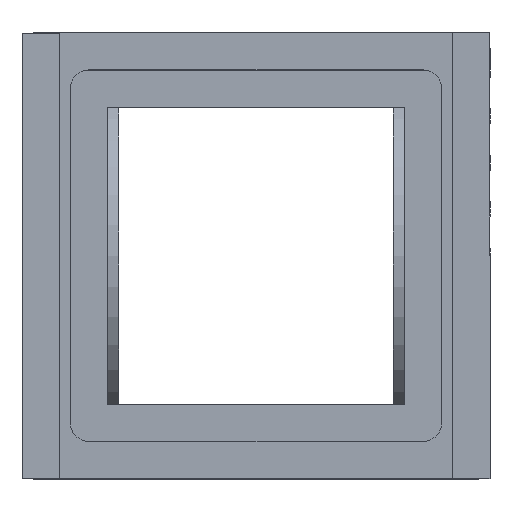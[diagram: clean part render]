
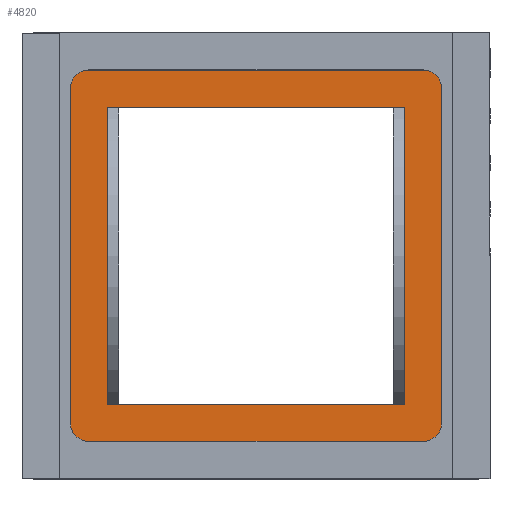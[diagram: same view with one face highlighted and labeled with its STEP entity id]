
A CAD part, top view. The second image highlights one B-rep face of the part: STEP entity #4820.
In plain terms, the highlighted planar face has unit normal (0, 0, 1).
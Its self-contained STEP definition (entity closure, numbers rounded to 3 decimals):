
#132 = LINE ( 'NONE', #4241, #4116 ) ;
#268 = VECTOR ( 'NONE', #3226, 1000. ) ;
#438 = VERTEX_POINT ( 'NONE', #3434 ) ;
#472 = DIRECTION ( 'NONE',  ( 0., -1., 0. ) ) ;
#511 = LINE ( 'NONE', #1929, #4541 ) ;
#541 = ORIENTED_EDGE ( 'NONE', *, *, #4026, .F. ) ;
#662 = DIRECTION ( 'NONE',  ( -1., 0., 0. ) ) ;
#682 = DIRECTION ( 'NONE',  ( 1., 0., 0. ) ) ;
#721 = VERTEX_POINT ( 'NONE', #733 ) ;
#733 = CARTESIAN_POINT ( 'NONE',  ( 50., 90., 50. ) ) ;
#826 = VERTEX_POINT ( 'NONE', #2264 ) ;
#864 = VERTEX_POINT ( 'NONE', #1433 ) ;
#991 = CARTESIAN_POINT ( 'NONE',  ( -40., 80., 50. ) ) ;
#1321 = ORIENTED_EDGE ( 'NONE', *, *, #4847, .T. ) ;
#1393 = CARTESIAN_POINT ( 'NONE',  ( 50., 0., 50. ) ) ;
#1407 = AXIS2_PLACEMENT_3D ( 'NONE', #2391, #2893, #662 ) ;
#1433 = CARTESIAN_POINT ( 'NONE',  ( 40., 0., 50. ) ) ;
#1436 = EDGE_CURVE ( 'NONE', #5105, #4177, #2072, .T. ) ;
#1490 = EDGE_CURVE ( 'NONE', #864, #4177, #2173, .T. ) ;
#1666 = CARTESIAN_POINT ( 'NONE',  ( 50., -10., 50. ) ) ;
#1671 = CARTESIAN_POINT ( 'NONE',  ( 50., -10., 50. ) ) ;
#1718 = ORIENTED_EDGE ( 'NONE', *, *, #2393, .T. ) ;
#1895 = PLANE ( 'NONE',  #1407 ) ;
#1913 = LINE ( 'NONE', #3656, #268 ) ;
#1929 = CARTESIAN_POINT ( 'NONE',  ( 50., 90., 50. ) ) ;
#1932 = FACE_BOUND ( 'NONE', #3249, .T. ) ;
#1967 = FACE_OUTER_BOUND ( 'NONE', #5671, .T. ) ;
#2072 = LINE ( 'NONE', #2416, #5428 ) ;
#2173 = LINE ( 'NONE', #3534, #3480 ) ;
#2186 = VERTEX_POINT ( 'NONE', #5151 ) ;
#2217 = ORIENTED_EDGE ( 'NONE', *, *, #3104, .F. ) ;
#2264 = CARTESIAN_POINT ( 'NONE',  ( -50., -10., 50. ) ) ;
#2391 = CARTESIAN_POINT ( 'NONE',  ( -50., 90., 50. ) ) ;
#2393 = EDGE_CURVE ( 'NONE', #864, #438, #4021, .T. ) ;
#2416 = CARTESIAN_POINT ( 'NONE',  ( -50., 80., 50. ) ) ;
#2534 = ORIENTED_EDGE ( 'NONE', *, *, #1490, .F. ) ;
#2578 = LINE ( 'NONE', #1666, #4517 ) ;
#2787 = DIRECTION ( 'NONE',  ( -1., 0., 0. ) ) ;
#2893 = DIRECTION ( 'NONE',  ( 0., 0., -1. ) ) ;
#3104 = EDGE_CURVE ( 'NONE', #721, #3420, #511, .T. ) ;
#3108 = DIRECTION ( 'NONE',  ( 0., 1., 0. ) ) ;
#3226 = DIRECTION ( 'NONE',  ( 1., 0., 0. ) ) ;
#3236 = LINE ( 'NONE', #4578, #4985 ) ;
#3249 = EDGE_LOOP ( 'NONE', ( #2534, #1718, #1321, #3806 ) ) ;
#3420 = VERTEX_POINT ( 'NONE', #1671 ) ;
#3434 = CARTESIAN_POINT ( 'NONE',  ( -40., 0., 50. ) ) ;
#3440 = ORIENTED_EDGE ( 'NONE', *, *, #3546, .T. ) ;
#3480 = VECTOR ( 'NONE', #3108, 1000. ) ;
#3534 = CARTESIAN_POINT ( 'NONE',  ( 40., 0., 50. ) ) ;
#3546 = EDGE_CURVE ( 'NONE', #2186, #826, #3236, .T. ) ;
#3656 = CARTESIAN_POINT ( 'NONE',  ( -50., 90., 50. ) ) ;
#3757 = ORIENTED_EDGE ( 'NONE', *, *, #3862, .F. ) ;
#3806 = ORIENTED_EDGE ( 'NONE', *, *, #1436, .T. ) ;
#3862 = EDGE_CURVE ( 'NONE', #3420, #826, #2578, .T. ) ;
#4021 = LINE ( 'NONE', #1393, #4267 ) ;
#4026 = EDGE_CURVE ( 'NONE', #2186, #721, #1913, .T. ) ;
#4116 = VECTOR ( 'NONE', #4679, 1000. ) ;
#4177 = VERTEX_POINT ( 'NONE', #5467 ) ;
#4241 = CARTESIAN_POINT ( 'NONE',  ( -40., 0., 50. ) ) ;
#4267 = VECTOR ( 'NONE', #2787, 1000. ) ;
#4496 = DIRECTION ( 'NONE',  ( 0., -1., 0. ) ) ;
#4517 = VECTOR ( 'NONE', #4858, 1000. ) ;
#4541 = VECTOR ( 'NONE', #4496, 1000. ) ;
#4578 = CARTESIAN_POINT ( 'NONE',  ( -50., 90., 50. ) ) ;
#4679 = DIRECTION ( 'NONE',  ( 0., 1., 0. ) ) ;
#4820 = ADVANCED_FACE ( 'NONE', ( #1932, #1967 ), #1895, .F. ) ;
#4847 = EDGE_CURVE ( 'NONE', #438, #5105, #132, .T. ) ;
#4858 = DIRECTION ( 'NONE',  ( -1., 0., 0. ) ) ;
#4985 = VECTOR ( 'NONE', #472, 1000. ) ;
#5105 = VERTEX_POINT ( 'NONE', #991 ) ;
#5151 = CARTESIAN_POINT ( 'NONE',  ( -50., 90., 50. ) ) ;
#5428 = VECTOR ( 'NONE', #682, 1000. ) ;
#5467 = CARTESIAN_POINT ( 'NONE',  ( 40., 80., 50. ) ) ;
#5671 = EDGE_LOOP ( 'NONE', ( #3440, #3757, #2217, #541 ) ) ;
